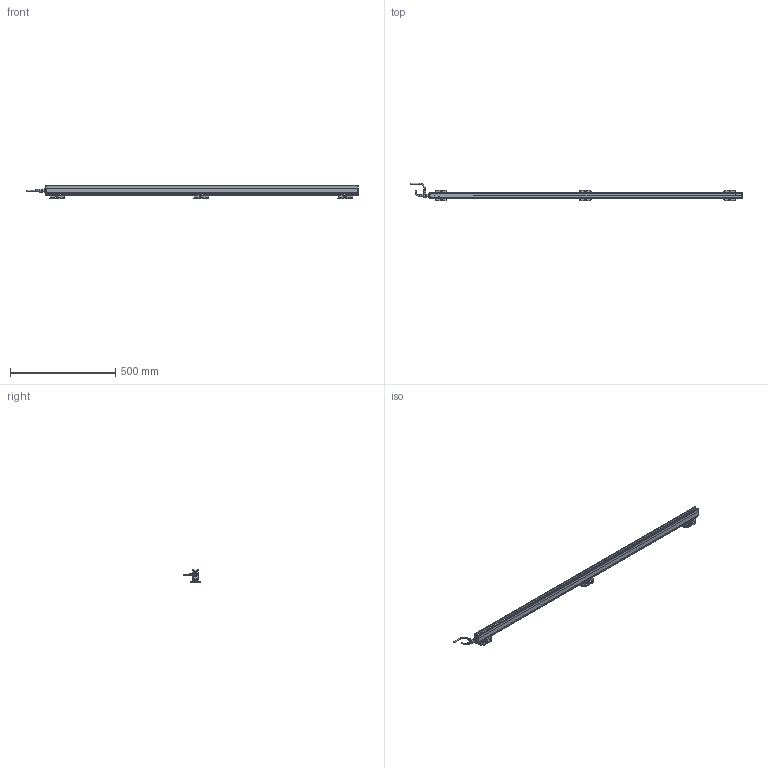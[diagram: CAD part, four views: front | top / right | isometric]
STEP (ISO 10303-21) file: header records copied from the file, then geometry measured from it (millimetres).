
FILE_DESCRIPTION(('Bauteilbeschreibung','HiCAD-Model','HiCAD-STEP-TRANSLATION','Bauteilbeschreibung'),'2;1');
FILE_NAME('PERFORMAXIQEASY_1410-1500_3D.STP','2014-03-05T11:43:19+00:00',('Konstrukteur'),('Konstrukteur Firma GmbH'),' HiCAD 2011, Step 1600.0 ','HiCAD 2011','confidential');
FILE_SCHEMA(('AUTOMOTIVE_DESIGN { 1 2 10303 214 0 1 1 1 }'));
Products named in the file (43): PERFORMAXIQEASY_1410_1500_3D; A_PERFORMAX IQ EASY 1410_1500; A_PERFORMAX IQ EASY SPEED; A_CAP DE; A_CAP CE_5; GROUP; PIN; GROUP0; PIN0; LED_2C_3MM; LED02C03MM; A519020315_CONNECTOR APPLIANCE; A_INSERT; A_CONTACTS; A_HOUSING; A_PROFILE; A_POTTING; A532000100_BRACKET BARS_ MOUNT; A_SIDE PIECE; A0SIDE0PIECE; A_BRACKET SMALL; A_SLIDE PIECE; A5320001000BRACKET0BARS00MOUNT; A0SIDE0PIECE0; A0SIDE0PIECE1; A0BRACKET0SMALL; A0SLIDE0PIECE; A5320001000BRACKET0BARS00MOUNT0; A0SIDE0PIECE2; A0SIDE0PIECE3; A0BRACKET0SMALL0; A0SLIDE0PIECE0; A_CONNECTOR STRAIGHT; EXTRUDED SOLID_0; DRAAD GEBOGEN; REVOLVED SOLID_1; REVOLVED SOLID_3; A_CONNECTOR ANGLED; REVOLVED0SOLID01; EXTRUDED0SOLID00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
Assembly tree (42 placements, depth 5):
  PERFORMAXIQEASY_1410_1500_3D
    A_PERFORMAX IQ EASY 1410_1500
      A_PERFORMAX IQ EASY SPEED
        A_CAP DE
        A_CAP CE_5
        GROUP
          PIN
        GROUP0
          PIN0
        LED_2C_3MM
        LED02C03MM
        A519020315_CONNECTOR APPLIANCE
          A_INSERT
          A_CONTACTS
          A_HOUSING
        A_PROFILE
        A_POTTING
      A532000100_BRACKET BARS_ MOUNT
        A_SIDE PIECE
        A0SIDE0PIECE
        A_BRACKET SMALL
        A_SLIDE PIECE
      A5320001000BRACKET0BARS00MOUNT
        A0SIDE0PIECE0
        A0SIDE0PIECE1
        A0BRACKET0SMALL
        A0SLIDE0PIECE
      A5320001000BRACKET0BARS00MOUNT0
        A0SIDE0PIECE2
        A0SIDE0PIECE3
        A0BRACKET0SMALL0
        A0SLIDE0PIECE0
      A_CONNECTOR STRAIGHT
        EXTRUDED SOLID_0
        DRAAD GEBOGEN
        REVOLVED SOLID_1
        REVOLVED SOLID_3
      A_CONNECTOR ANGLED
        REVOLVED0SOLID01
        EXTRUDED0SOLID00
        C_EDGE SWEEP_0
        REVOLVED SOLID_2
        REVOLVED0SOLID03
Bounding box: 1577.89 x 84.28 x 63.13 mm (x, y, z)
Volume: 1562997.2 mm3; surface area: 398419.2 mm2
Topology: 37 solids, 37 shells, 2679 faces, 6859 edges, 4095 vertices
Faces by surface type: cylinder 1117, plane 1033, sphere 167, torus 158, bspline 128, cone 76
Full cylindrical faces by diameter (mm): 0.8 x10, 1 x5, 2.387 x6, 3 x15, 3.1 x1, 4.2 x2, 5 x4, 5.5 x15, 8 x2, 8.2 x1, 8.4 x2, 8.945 x1, 9 x2, 10.2 x1, 10.5 x3, 11 x1, 12 x3, 12.8 x1, 13.8 x4, 14.5 x3
Entity records: 123325 total; most frequent: CARTESIAN_POINT 28458, DIRECTION 13337, ORIENTED_EDGE 12962, EDGE_CURVE 6481, COLOUR_RGB 6168, PRESENTATION_STYLE_ASSIGNMENT 6168, OVER_RIDING_STYLED_ITEM 6136, CURVE_STYLE 6131
